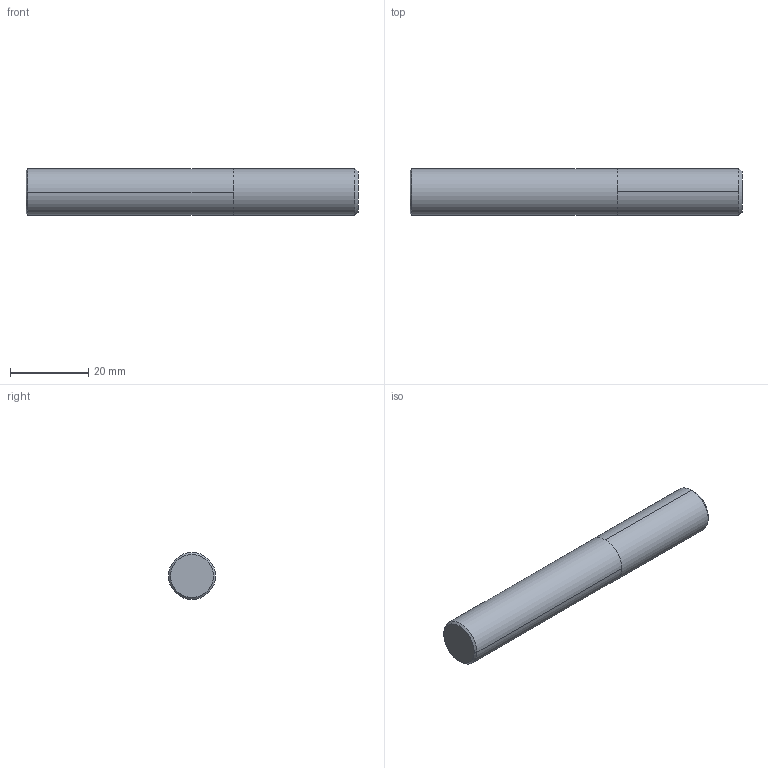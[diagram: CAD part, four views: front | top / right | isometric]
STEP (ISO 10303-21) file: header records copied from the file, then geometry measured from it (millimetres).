
FILE_DESCRIPTION (( 'STEP AP203' ), '1' );
FILE_NAME ('03-1780.STEP', '2021-09-10T07:27:57', ( 'USER' ), ( 'Hewlett-Packard Company' ), 'SwSTEP 2.0', 'SolidWorks 2014', '' );
FILE_SCHEMA (( 'CONFIG_CONTROL_DESIGN' ));
Length unit declared in the file: millimetre
Products named in the file (1): 03-1780
Bounding box: 85 x 12 x 12 mm (x, y, z)
Volume: 9597.4 mm3; surface area: 3627.2 mm2
Topology: 2 solids, 2 shells, 12 faces, 20 edges, 12 vertices
Faces by surface type: cylinder 4, cone 4, plane 4
Entity records: 359 total; most frequent: DIRECTION 58, CARTESIAN_POINT 45, ORIENTED_EDGE 40, AXIS2_PLACEMENT_3D 25, EDGE_CURVE 20, FACE_OUTER_BOUND 12, VERTEX_POINT 12, ADVANCED_FACE 12
